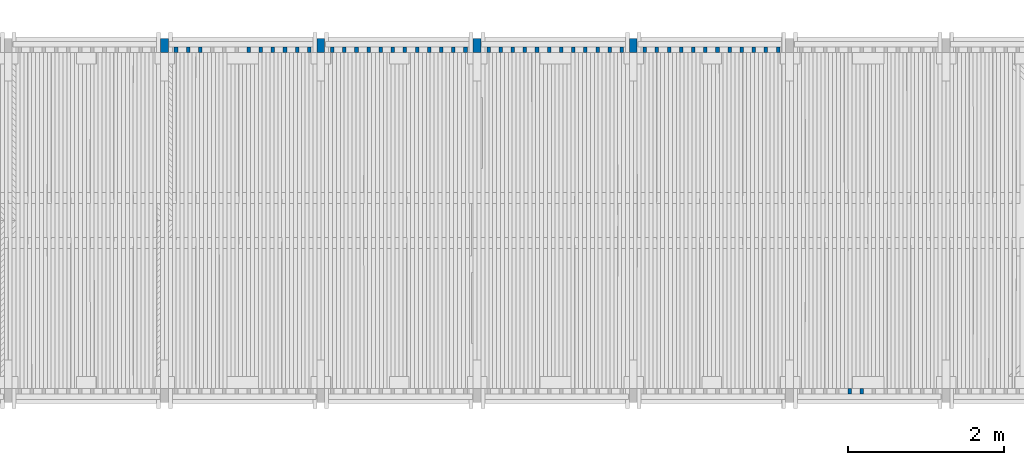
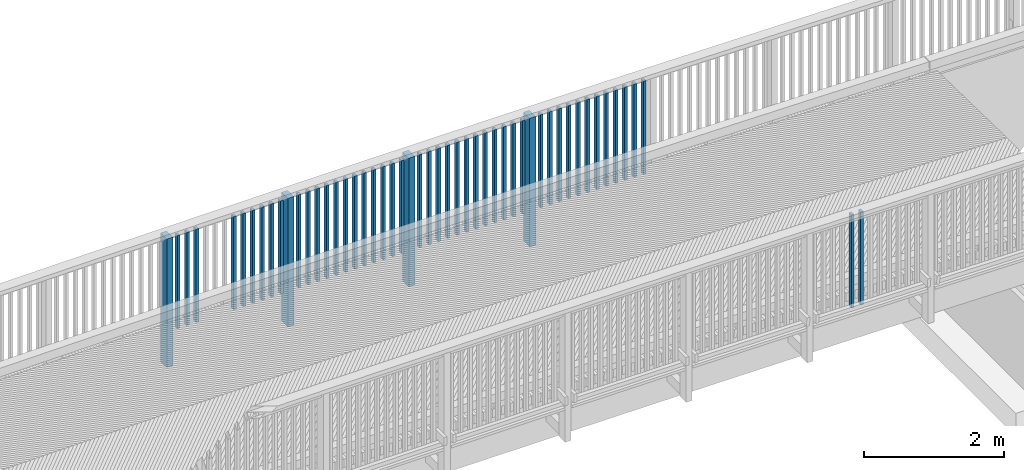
# One storey, part 9 of 52: 51 columns.
"""IFC2X3 building model written with IfcOpenShell, lengths in millimetres."""

from ifc_helpers import new_model, si_unit, frame, origin_with_axes, place, context, subcontext, project, spatial, faceted_brep, material, type_object, element, save


model = new_model("IFC2X3")

# Units and contexts
model_context = context("Model", 3, precision=1e-05, world=origin_with_axes())
body_context = subcontext(model_context, "Body", "Model", "MODEL_VIEW")
ifc_project = project(units=[si_unit("LENGTHUNIT", "METRE", prefix="MILLI"), si_unit("AREAUNIT", "SQUARE_METRE"), si_unit("VOLUMEUNIT", "CUBIC_METRE"), si_unit("MASSUNIT", "GRAM", prefix="KILO"), si_unit("TIMEUNIT", "SECOND"), si_unit("PLANEANGLEUNIT", "RADIAN"), si_unit("SOLIDANGLEUNIT", "STERADIAN"), si_unit("THERMODYNAMICTEMPERATUREUNIT", "DEGREE_CELSIUS"), si_unit("LUMINOUSINTENSITYUNIT", "LUMEN")], contexts=[model_context])

# Site, building, storey
site_placement = place(None, origin_with_axes())
site = spatial("IfcSite", under=ifc_project, at=site_placement, Name="Undefined", CompositionType="ELEMENT")
building_placement = place(site_placement, origin_with_axes())
building = spatial("IfcBuilding", under=site, at=building_placement, Name="Undefined", CompositionType="ELEMENT")
storey_placement = place(building_placement, origin_with_axes())
storey = spatial("IfcBuildingStorey", under=building, at=storey_placement, Name="Undefined", CompositionType="ELEMENT", Elevation=0.0)

# Columns
ifc_material = material(Name="TIMBER/Timber_Undefined")
column_type_1 = type_object("IfcColumnType", Name="180*100", PredefinedType="NOTDEFINED")
for number, where, z_axis, x_axis in (
    (1, (10000.0000678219, 4604.98790809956, 2309.97693042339), (0.0, -1.0, 0.0), (0.0, 0.0, 1.0)),
    (2, (8000.00006782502, 4604.98790809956, 2313.29124390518), (0.0, -1.0, 0.0), (0.0, 0.0, 1.0)),
    (3, (6000.00006782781, 4604.98790809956, 2309.97693031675), (0.0, -1.0, 0.0), (0.0, 0.0, 1.0)),
    (4, (4000.00006783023, 4604.98790809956, 2300.03388043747), (0.0, -1.0, 0.0), (0.0, 0.0, 1.0)),
):
    element("IfcColumn", number, at=place(storey_placement, frame(where, z_axis=z_axis, x_axis=x_axis)), inside=storey, type_object=column_type_1, material=ifc_material, Name="KAIDEPYLVÄS", ObjectType="180*100", context=body_context, shape_type="Brep", body=[
        faceted_brep([(0.0, 50.0, -90.0), (0.0, 50.0, 90.0), (2250.0, 50.0, 90.0), (2250.0, 50.0, -90.0), (0.0, -50.0, 90.0), (2250.0, -50.0, 90.0), (0.0, -50.0, -90.0), (2250.0, -50.0, -90.0)], [[[0, 1, 2, 3]], [[1, 4, 5, 2]], [[4, 6, 7, 5]], [[6, 0, 3, 7]], [[5, 7, 3, 2]], [[6, 4, 1, 0]]]),
    ])
column_type_2 = type_object("IfcColumnType", Name="70*45", PredefinedType="NOTDEFINED")
column_1_placement = place(storey_placement, frame((11852.5000007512, 4549.98790809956, 3109.68000000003), z_axis=(0.0, 1.0, 0.0), x_axis=(0.0, 0.0, 1.0)))
element("IfcColumn", 5, at=column_1_placement, inside=storey, type_object=column_type_2, material=ifc_material, Name="BEAM", ObjectType="70*45", context=body_context, shape_type="Brep", body=[
    faceted_brep([(-189.254587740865, 22.5, -35.0), (-189.254587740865, 22.5, 35.0), (1440.74637076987, 22.5, 35.0), (1440.74637076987, 22.5, -35.0), (-189.019094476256, -22.5, 35.0), (1440.98186403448, -22.5, 35.0), (-189.019094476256, -22.5, -35.0), (1440.98186403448, -22.5, -35.0)], [[[0, 1, 2, 3]], [[1, 4, 5, 2]], [[4, 6, 7, 5]], [[6, 0, 3, 7]], [[5, 7, 3, 2]], [[6, 4, 1, 0]]]),
])
column_2_placement = place(storey_placement, frame((11697.5000007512, 4549.98790809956, 3109.68000000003), z_axis=(0.0, 1.0, 0.0), x_axis=(0.0, 0.0, 1.0)))
element("IfcColumn", 6, at=column_2_placement, inside=storey, type_object=column_type_2, material=ifc_material, Name="BEAM", ObjectType="70*45", context=body_context, shape_type="Brep", body=[
    faceted_brep([(-188.443444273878, 22.5, -35.0), (-188.443444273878, 22.5, 35.0), (1441.55751423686, 22.5, 35.0), (1441.55751423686, 22.5, -35.0), (-188.207951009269, -22.5, 35.0), (1441.79300750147, -22.5, 35.0), (-188.207951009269, -22.5, -35.0), (1441.79300750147, -22.5, -35.0)], [[[0, 1, 2, 3]], [[1, 4, 5, 2]], [[4, 6, 7, 5]], [[6, 0, 3, 7]], [[5, 7, 3, 2]], [[6, 4, 1, 0]]]),
])
column_3_placement = place(storey_placement, frame((11542.5000007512, 4549.98790809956, 3109.68000000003), z_axis=(0.0, 1.0, 0.0), x_axis=(0.0, 0.0, 1.0)))
element("IfcColumn", 7, at=column_3_placement, inside=storey, type_object=column_type_2, material=ifc_material, Name="BEAM", ObjectType="70*45", context=body_context, shape_type="Brep", body=[
    faceted_brep([(-187.63230080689, 22.5, -35.0), (-187.63230080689, 22.5, 35.0), (1442.36865770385, 22.5, 35.0), (1442.36865770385, 22.5, -35.0), (-187.396807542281, -22.5, 35.0), (1442.60415096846, -22.5, 35.0), (-187.396807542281, -22.5, -35.0), (1442.60415096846, -22.5, -35.0)], [[[0, 1, 2, 3]], [[1, 4, 5, 2]], [[4, 6, 7, 5]], [[6, 0, 3, 7]], [[5, 7, 3, 2]], [[6, 4, 1, 0]]]),
])
column_4_placement = place(storey_placement, frame((11387.5000007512, 4549.98790809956, 3109.68000000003), z_axis=(0.0, 1.0, 0.0), x_axis=(0.0, 0.0, 1.0)))
element("IfcColumn", 8, at=column_4_placement, inside=storey, type_object=column_type_2, material=ifc_material, Name="BEAM", ObjectType="70*45", context=body_context, shape_type="Brep", body=[
    faceted_brep([(-186.821157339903, 22.5, -35.0), (-186.821157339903, 22.5, 35.0), (1443.17980117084, 22.5, 35.0), (1443.17980117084, 22.5, -35.0), (-186.585664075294, -22.5, 35.0), (1443.41529443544, -22.5, 35.0), (-186.585664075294, -22.5, -35.0), (1443.41529443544, -22.5, -35.0)], [[[0, 1, 2, 3]], [[1, 4, 5, 2]], [[4, 6, 7, 5]], [[6, 0, 3, 7]], [[5, 7, 3, 2]], [[6, 4, 1, 0]]]),
])
column_5_placement = place(storey_placement, frame((11232.5000007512, 4549.98790809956, 3109.68000000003), z_axis=(0.0, 1.0, 0.0), x_axis=(0.0, 0.0, 1.0)))
element("IfcColumn", 9, at=column_5_placement, inside=storey, type_object=column_type_2, material=ifc_material, Name="BEAM", ObjectType="70*45", context=body_context, shape_type="Brep", body=[
    faceted_brep([(-186.010013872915, 22.5, -35.0), (-186.010013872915, 22.5, 35.0), (1443.99094463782, 22.5, 35.0), (1443.99094463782, 22.5, -35.0), (-185.774520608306, -22.5, 35.0), (1444.22643790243, -22.5, 35.0), (-185.774520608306, -22.5, -35.0), (1444.22643790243, -22.5, -35.0)], [[[0, 1, 2, 3]], [[1, 4, 5, 2]], [[4, 6, 7, 5]], [[6, 0, 3, 7]], [[5, 7, 3, 2]], [[6, 4, 1, 0]]]),
])
column_6_placement = place(storey_placement, frame((11077.5000007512, 4549.98790809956, 3109.68000000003), z_axis=(0.0, 1.0, 0.0), x_axis=(0.0, 0.0, 1.0)))
element("IfcColumn", 10, at=column_6_placement, inside=storey, type_object=column_type_2, material=ifc_material, Name="BEAM", ObjectType="70*45", context=body_context, shape_type="Brep", body=[
    faceted_brep([(-185.198870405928, 22.5, -35.0), (-185.198870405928, 22.5, 35.0), (1444.80208810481, 22.5, 35.0), (1444.80208810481, 22.5, -35.0), (-184.963377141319, -22.5, 35.0), (1445.03758136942, -22.5, 35.0), (-184.963377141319, -22.5, -35.0), (1445.03758136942, -22.5, -35.0)], [[[0, 1, 2, 3]], [[1, 4, 5, 2]], [[4, 6, 7, 5]], [[6, 0, 3, 7]], [[5, 7, 3, 2]], [[6, 4, 1, 0]]]),
])
column_7_placement = place(storey_placement, frame((10922.5000007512, 4549.98790809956, 3109.68000000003), z_axis=(0.0, 1.0, 0.0), x_axis=(0.0, 0.0, 1.0)))
element("IfcColumn", 11, at=column_7_placement, inside=storey, type_object=column_type_2, material=ifc_material, Name="BEAM", ObjectType="70*45", context=body_context, shape_type="Brep", body=[
    faceted_brep([(-184.38772693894, 22.5, -35.0), (-184.38772693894, 22.5, 35.0), (1445.6132315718, 22.5, 35.0), (1445.6132315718, 22.5, -35.0), (-184.152233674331, -22.5, 35.0), (1445.84872483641, -22.5, 35.0), (-184.152233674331, -22.5, -35.0), (1445.84872483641, -22.5, -35.0)], [[[0, 1, 2, 3]], [[1, 4, 5, 2]], [[4, 6, 7, 5]], [[6, 0, 3, 7]], [[5, 7, 3, 2]], [[6, 4, 1, 0]]]),
])
column_8_placement = place(storey_placement, frame((10767.5000007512, 4549.98790809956, 3109.68000000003), z_axis=(0.0, 1.0, 0.0), x_axis=(0.0, 0.0, 1.0)))
element("IfcColumn", 12, at=column_8_placement, inside=storey, type_object=column_type_2, material=ifc_material, Name="BEAM", ObjectType="70*45", context=body_context, shape_type="Brep", body=[
    faceted_brep([(-183.576583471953, 22.5, -35.0), (-183.576583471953, 22.5, 35.0), (1446.42437503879, 22.5, 35.0), (1446.42437503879, 22.5, -35.0), (-183.341090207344, -22.5, 35.0), (1446.65986830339, -22.5, 35.0), (-183.341090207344, -22.5, -35.0), (1446.65986830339, -22.5, -35.0)], [[[0, 1, 2, 3]], [[1, 4, 5, 2]], [[4, 6, 7, 5]], [[6, 0, 3, 7]], [[5, 7, 3, 2]], [[6, 4, 1, 0]]]),
])
column_9_placement = place(storey_placement, frame((10612.5000007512, 4549.98790809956, 3109.68000000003), z_axis=(0.0, 1.0, 0.0), x_axis=(0.0, 0.0, 1.0)))
element("IfcColumn", 13, at=column_9_placement, inside=storey, type_object=column_type_2, material=ifc_material, Name="BEAM", ObjectType="70*45", context=body_context, shape_type="Brep", body=[
    faceted_brep([(-182.765440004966, 22.5, -35.0), (-182.765440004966, 22.5, 35.0), (1447.23551850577, 22.5, 35.0), (1447.23551850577, 22.5, -35.0), (-182.529946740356, -22.5, 35.0), (1447.47101177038, -22.5, 35.0), (-182.529946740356, -22.5, -35.0), (1447.47101177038, -22.5, -35.0)], [[[0, 1, 2, 3]], [[1, 4, 5, 2]], [[4, 6, 7, 5]], [[6, 0, 3, 7]], [[5, 7, 3, 2]], [[6, 4, 1, 0]]]),
])
column_10_placement = place(storey_placement, frame((10457.5000007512, 4549.98790809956, 3109.68000000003), z_axis=(0.0, 1.0, 0.0), x_axis=(0.0, 0.0, 1.0)))
element("IfcColumn", 14, at=column_10_placement, inside=storey, type_object=column_type_2, material=ifc_material, Name="BEAM", ObjectType="70*45", context=body_context, shape_type="Brep", body=[
    faceted_brep([(-181.954296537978, 22.5, -35.0), (-181.954296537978, 22.5, 35.0), (1448.04666197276, 22.5, 35.0), (1448.04666197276, 22.5, -35.0), (-181.718803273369, -22.5, 35.0), (1448.28215523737, -22.5, 35.0), (-181.718803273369, -22.5, -35.0), (1448.28215523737, -22.5, -35.0)], [[[0, 1, 2, 3]], [[1, 4, 5, 2]], [[4, 6, 7, 5]], [[6, 0, 3, 7]], [[5, 7, 3, 2]], [[6, 4, 1, 0]]]),
])
column_11_placement = place(storey_placement, frame((10302.5000007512, 4549.98790809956, 3109.68000000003), z_axis=(0.0, 1.0, 0.0), x_axis=(0.0, 0.0, 1.0)))
element("IfcColumn", 15, at=column_11_placement, inside=storey, type_object=column_type_2, material=ifc_material, Name="BEAM", ObjectType="70*45", context=body_context, shape_type="Brep", body=[
    faceted_brep([(-181.143153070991, 22.5, -35.0), (-181.143153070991, 22.5, 35.0), (1448.85780543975, 22.5, 35.0), (1448.85780543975, 22.5, -35.0), (-180.907659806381, -22.5, 35.0), (1449.09329870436, -22.5, 35.0), (-180.907659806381, -22.5, -35.0), (1449.09329870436, -22.5, -35.0)], [[[0, 1, 2, 3]], [[1, 4, 5, 2]], [[4, 6, 7, 5]], [[6, 0, 3, 7]], [[5, 7, 3, 2]], [[6, 4, 1, 0]]]),
])
column_12_placement = place(storey_placement, frame((10147.5000007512, 4549.98790809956, 3109.68000000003), z_axis=(0.0, 1.0, 0.0), x_axis=(0.0, 0.0, 1.0)))
element("IfcColumn", 16, at=column_12_placement, inside=storey, type_object=column_type_2, material=ifc_material, Name="BEAM", ObjectType="70*45", context=body_context, shape_type="Brep", body=[
    faceted_brep([(-180.332009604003, 22.5, -35.0), (-180.332009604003, 22.5, 35.0), (1449.66894890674, 22.5, 35.0), (1449.66894890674, 22.5, -35.0), (-180.096516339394, -22.5, 35.0), (1449.90444217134, -22.5, 35.0), (-180.096516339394, -22.5, -35.0), (1449.90444217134, -22.5, -35.0)], [[[0, 1, 2, 3]], [[1, 4, 5, 2]], [[4, 6, 7, 5]], [[6, 0, 3, 7]], [[5, 7, 3, 2]], [[6, 4, 1, 0]]]),
])
column_13_placement = place(storey_placement, frame((9852.50000075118, 4549.98790809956, 3109.68000000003), z_axis=(0.0, 1.0, 0.0), x_axis=(0.0, 0.0, 1.0)))
element("IfcColumn", 17, at=column_13_placement, inside=storey, type_object=column_type_2, material=ifc_material, Name="BEAM", ObjectType="70*45", context=body_context, shape_type="Brep", body=[
    faceted_brep([(-179.572348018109, 22.5, -35.0), (-179.572348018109, 22.5, 35.0), (1450.42775848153, 22.5, 35.0), (1450.42775848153, 22.5, -35.0), (-179.493851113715, -22.5, 35.0), (1450.50625538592, -22.5, 35.0), (-179.493851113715, -22.5, -35.0), (1450.50625538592, -22.5, -35.0)], [[[0, 1, 2, 3]], [[1, 4, 5, 2]], [[4, 6, 7, 5]], [[6, 0, 3, 7]], [[5, 7, 3, 2]], [[6, 4, 1, 0]]]),
])
column_14_placement = place(storey_placement, frame((9697.50000075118, 4549.98790809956, 3109.68000000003), z_axis=(0.0, 1.0, 0.0), x_axis=(0.0, 0.0, 1.0)))
element("IfcColumn", 18, at=column_14_placement, inside=storey, type_object=column_type_2, material=ifc_material, Name="BEAM", ObjectType="70*45", context=body_context, shape_type="Brep", body=[
    faceted_brep([(-179.301969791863, 22.5, -35.0), (-179.301969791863, 22.5, 35.0), (1450.69813670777, 22.5, 35.0), (1450.69813670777, 22.5, -35.0), (-179.22347288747, -22.5, 35.0), (1450.77663361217, -22.5, 35.0), (-179.22347288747, -22.5, -35.0), (1450.77663361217, -22.5, -35.0)], [[[0, 1, 2, 3]], [[1, 4, 5, 2]], [[4, 6, 7, 5]], [[6, 0, 3, 7]], [[5, 7, 3, 2]], [[6, 4, 1, 0]]]),
])
column_15_placement = place(storey_placement, frame((9542.50000075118, 4549.98790809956, 3109.68000000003), z_axis=(0.0, 1.0, 0.0), x_axis=(0.0, 0.0, 1.0)))
element("IfcColumn", 19, at=column_15_placement, inside=storey, type_object=column_type_2, material=ifc_material, Name="BEAM", ObjectType="70*45", context=body_context, shape_type="Brep", body=[
    faceted_brep([(-179.031591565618, 22.5, -35.0), (-179.031591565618, 22.5, 35.0), (1450.96851493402, 22.5, 35.0), (1450.96851493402, 22.5, -35.0), (-178.953094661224, -22.5, 35.0), (1451.04701183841, -22.5, 35.0), (-178.953094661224, -22.5, -35.0), (1451.04701183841, -22.5, -35.0)], [[[0, 1, 2, 3]], [[1, 4, 5, 2]], [[4, 6, 7, 5]], [[6, 0, 3, 7]], [[5, 7, 3, 2]], [[6, 4, 1, 0]]]),
])
column_16_placement = place(storey_placement, frame((9387.50000075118, 4549.98790809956, 3109.68000000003), z_axis=(0.0, 1.0, 0.0), x_axis=(0.0, 0.0, 1.0)))
element("IfcColumn", 20, at=column_16_placement, inside=storey, type_object=column_type_2, material=ifc_material, Name="BEAM", ObjectType="70*45", context=body_context, shape_type="Brep", body=[
    faceted_brep([(-178.761213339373, 22.5, -35.0), (-178.761213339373, 22.5, 35.0), (1451.23889316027, 22.5, 35.0), (1451.23889316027, 22.5, -35.0), (-178.682716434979, -22.5, 35.0), (1451.31739006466, -22.5, 35.0), (-178.682716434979, -22.5, -35.0), (1451.31739006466, -22.5, -35.0)], [[[0, 1, 2, 3]], [[1, 4, 5, 2]], [[4, 6, 7, 5]], [[6, 0, 3, 7]], [[5, 7, 3, 2]], [[6, 4, 1, 0]]]),
])
column_17_placement = place(storey_placement, frame((9232.50000075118, 4549.98790809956, 3109.68000000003), z_axis=(0.0, 1.0, 0.0), x_axis=(0.0, 0.0, 1.0)))
element("IfcColumn", 21, at=column_17_placement, inside=storey, type_object=column_type_2, material=ifc_material, Name="BEAM", ObjectType="70*45", context=body_context, shape_type="Brep", body=[
    faceted_brep([(-178.490835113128, 22.5, -35.0), (-178.490835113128, 22.5, 35.0), (1451.50927138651, 22.5, 35.0), (1451.50927138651, 22.5, -35.0), (-178.412338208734, -22.5, 35.0), (1451.5877682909, -22.5, 35.0), (-178.412338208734, -22.5, -35.0), (1451.5877682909, -22.5, -35.0)], [[[0, 1, 2, 3]], [[1, 4, 5, 2]], [[4, 6, 7, 5]], [[6, 0, 3, 7]], [[5, 7, 3, 2]], [[6, 4, 1, 0]]]),
])
column_18_placement = place(storey_placement, frame((9077.50000075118, 4549.98790809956, 3109.68000000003), z_axis=(0.0, 1.0, 0.0), x_axis=(0.0, 0.0, 1.0)))
element("IfcColumn", 22, at=column_18_placement, inside=storey, type_object=column_type_2, material=ifc_material, Name="BEAM", ObjectType="70*45", context=body_context, shape_type="Brep", body=[
    faceted_brep([(-178.220456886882, 22.5, -35.0), (-178.220456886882, 22.5, 35.0), (1451.77964961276, 22.5, 35.0), (1451.77964961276, 22.5, -35.0), (-178.141959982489, -22.5, 35.0), (1451.85814651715, -22.5, 35.0), (-178.141959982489, -22.5, -35.0), (1451.85814651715, -22.5, -35.0)], [[[0, 1, 2, 3]], [[1, 4, 5, 2]], [[4, 6, 7, 5]], [[6, 0, 3, 7]], [[5, 7, 3, 2]], [[6, 4, 1, 0]]]),
])
column_19_placement = place(storey_placement, frame((8922.50000075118, 4549.98790809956, 3109.68000000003), z_axis=(0.0, 1.0, 0.0), x_axis=(0.0, 0.0, 1.0)))
element("IfcColumn", 23, at=column_19_placement, inside=storey, type_object=column_type_2, material=ifc_material, Name="BEAM", ObjectType="70*45", context=body_context, shape_type="Brep", body=[
    faceted_brep([(-177.950078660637, 22.5, -35.0), (-177.950078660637, 22.5, 35.0), (1452.050027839, 22.5, 35.0), (1452.050027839, 22.5, -35.0), (-177.871581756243, -22.5, 35.0), (1452.12852474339, -22.5, 35.0), (-177.871581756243, -22.5, -35.0), (1452.12852474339, -22.5, -35.0)], [[[0, 1, 2, 3]], [[1, 4, 5, 2]], [[4, 6, 7, 5]], [[6, 0, 3, 7]], [[5, 7, 3, 2]], [[6, 4, 1, 0]]]),
])
column_20_placement = place(storey_placement, frame((8767.50000075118, 4549.98790809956, 3109.68000000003), z_axis=(0.0, 1.0, 0.0), x_axis=(0.0, 0.0, 1.0)))
element("IfcColumn", 24, at=column_20_placement, inside=storey, type_object=column_type_2, material=ifc_material, Name="BEAM", ObjectType="70*45", context=body_context, shape_type="Brep", body=[
    faceted_brep([(-177.679700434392, 22.5, -35.0), (-177.679700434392, 22.5, 35.0), (1452.32040606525, 22.5, 35.0), (1452.32040606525, 22.5, -35.0), (-177.601203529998, -22.5, 35.0), (1452.39890296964, -22.5, 35.0), (-177.601203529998, -22.5, -35.0), (1452.39890296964, -22.5, -35.0)], [[[0, 1, 2, 3]], [[1, 4, 5, 2]], [[4, 6, 7, 5]], [[6, 0, 3, 7]], [[5, 7, 3, 2]], [[6, 4, 1, 0]]]),
])
column_21_placement = place(storey_placement, frame((8612.50000075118, 4549.98790809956, 3109.68000000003), z_axis=(0.0, 1.0, 0.0), x_axis=(0.0, 0.0, 1.0)))
element("IfcColumn", 25, at=column_21_placement, inside=storey, type_object=column_type_2, material=ifc_material, Name="BEAM", ObjectType="70*45", context=body_context, shape_type="Brep", body=[
    faceted_brep([(-177.409322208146, 22.5, -35.0), (-177.409322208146, 22.5, 35.0), (1452.59078429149, 22.5, 35.0), (1452.59078429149, 22.5, -35.0), (-177.330825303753, -22.5, 35.0), (1452.66928119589, -22.5, 35.0), (-177.330825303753, -22.5, -35.0), (1452.66928119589, -22.5, -35.0)], [[[0, 1, 2, 3]], [[1, 4, 5, 2]], [[4, 6, 7, 5]], [[6, 0, 3, 7]], [[5, 7, 3, 2]], [[6, 4, 1, 0]]]),
])
column_22_placement = place(storey_placement, frame((8457.50000075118, 4549.98790809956, 3109.68000000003), z_axis=(0.0, 1.0, 0.0), x_axis=(0.0, 0.0, 1.0)))
element("IfcColumn", 26, at=column_22_placement, inside=storey, type_object=column_type_2, material=ifc_material, Name="BEAM", ObjectType="70*45", context=body_context, shape_type="Brep", body=[
    faceted_brep([(-177.138943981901, 22.5, -35.0), (-177.138943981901, 22.5, 35.0), (1452.86116251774, 22.5, 35.0), (1452.86116251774, 22.5, -35.0), (-177.060447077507, -22.5, 35.0), (1452.93965942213, -22.5, 35.0), (-177.060447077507, -22.5, -35.0), (1452.93965942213, -22.5, -35.0)], [[[0, 1, 2, 3]], [[1, 4, 5, 2]], [[4, 6, 7, 5]], [[6, 0, 3, 7]], [[5, 7, 3, 2]], [[6, 4, 1, 0]]]),
])
column_23_placement = place(storey_placement, frame((8302.50000075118, 4549.98790809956, 3109.68000000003), z_axis=(0.0, 1.0, 0.0), x_axis=(0.0, 0.0, 1.0)))
element("IfcColumn", 27, at=column_23_placement, inside=storey, type_object=column_type_2, material=ifc_material, Name="BEAM", ObjectType="70*45", context=body_context, shape_type="Brep", body=[
    faceted_brep([(-176.868565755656, 22.5, -35.0), (-176.868565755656, 22.5, 35.0), (1453.13154074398, 22.5, 35.0), (1453.13154074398, 22.5, -35.0), (-176.790068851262, -22.5, 35.0), (1453.21003764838, -22.5, 35.0), (-176.790068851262, -22.5, -35.0), (1453.21003764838, -22.5, -35.0)], [[[0, 1, 2, 3]], [[1, 4, 5, 2]], [[4, 6, 7, 5]], [[6, 0, 3, 7]], [[5, 7, 3, 2]], [[6, 4, 1, 0]]]),
])
column_24_placement = place(storey_placement, frame((8147.50000075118, 4549.98790809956, 3109.68000000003), z_axis=(0.0, 1.0, 0.0), x_axis=(0.0, 0.0, 1.0)))
element("IfcColumn", 28, at=column_24_placement, inside=storey, type_object=column_type_2, material=ifc_material, Name="BEAM", ObjectType="70*45", context=body_context, shape_type="Brep", body=[
    faceted_brep([(-176.598187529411, 22.5, -35.0), (-176.598187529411, 22.5, 35.0), (1453.40191897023, 22.5, 35.0), (1453.40191897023, 22.5, -35.0), (-176.519690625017, -22.5, 35.0), (1453.48041587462, -22.5, 35.0), (-176.519690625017, -22.5, -35.0), (1453.48041587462, -22.5, -35.0)], [[[0, 1, 2, 3]], [[1, 4, 5, 2]], [[4, 6, 7, 5]], [[6, 0, 3, 7]], [[5, 7, 3, 2]], [[6, 4, 1, 0]]]),
])
column_25_placement = place(storey_placement, frame((7852.50000075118, 4549.98790809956, 3109.68000000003), z_axis=(0.0, 1.0, 0.0), x_axis=(0.0, 0.0, 1.0)))
element("IfcColumn", 29, at=column_25_placement, inside=storey, type_object=column_type_2, material=ifc_material, Name="BEAM", ObjectType="70*45", context=body_context, shape_type="Brep", body=[
    faceted_brep([(-176.519690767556, 22.5, -35.0), (-176.519690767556, 22.5, 35.0), (1453.48041573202, 22.5, 35.0), (1453.48041573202, 22.5, -35.0), (-176.59818767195, -22.5, 35.0), (1453.40191882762, -22.5, 35.0), (-176.59818767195, -22.5, -35.0), (1453.40191882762, -22.5, -35.0)], [[[0, 1, 2, 3]], [[1, 4, 5, 2]], [[4, 6, 7, 5]], [[6, 0, 3, 7]], [[5, 7, 3, 2]], [[6, 4, 1, 0]]]),
])
column_26_placement = place(storey_placement, frame((7697.50000075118, 4549.98790809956, 3109.68000000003), z_axis=(0.0, 1.0, 0.0), x_axis=(0.0, 0.0, 1.0)))
element("IfcColumn", 30, at=column_26_placement, inside=storey, type_object=column_type_2, material=ifc_material, Name="BEAM", ObjectType="70*45", context=body_context, shape_type="Brep", body=[
    faceted_brep([(-176.790068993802, 22.5, -35.0), (-176.790068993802, 22.5, 35.0), (1453.21003750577, 22.5, 35.0), (1453.21003750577, 22.5, -35.0), (-176.868565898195, -22.5, 35.0), (1453.13154060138, -22.5, 35.0), (-176.868565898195, -22.5, -35.0), (1453.13154060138, -22.5, -35.0)], [[[0, 1, 2, 3]], [[1, 4, 5, 2]], [[4, 6, 7, 5]], [[6, 0, 3, 7]], [[5, 7, 3, 2]], [[6, 4, 1, 0]]]),
])
column_27_placement = place(storey_placement, frame((7542.50000075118, 4549.98790809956, 3109.68000000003), z_axis=(0.0, 1.0, 0.0), x_axis=(0.0, 0.0, 1.0)))
element("IfcColumn", 31, at=column_27_placement, inside=storey, type_object=column_type_2, material=ifc_material, Name="BEAM", ObjectType="70*45", context=body_context, shape_type="Brep", body=[
    faceted_brep([(-177.060447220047, 22.5, -35.0), (-177.060447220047, 22.5, 35.0), (1452.93965927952, 22.5, 35.0), (1452.93965927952, 22.5, -35.0), (-177.138944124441, -22.5, 35.0), (1452.86116237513, -22.5, 35.0), (-177.138944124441, -22.5, -35.0), (1452.86116237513, -22.5, -35.0)], [[[0, 1, 2, 3]], [[1, 4, 5, 2]], [[4, 6, 7, 5]], [[6, 0, 3, 7]], [[5, 7, 3, 2]], [[6, 4, 1, 0]]]),
])
column_28_placement = place(storey_placement, frame((7387.50000075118, 4549.98790809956, 3109.68000000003), z_axis=(0.0, 1.0, 0.0), x_axis=(0.0, 0.0, 1.0)))
element("IfcColumn", 32, at=column_28_placement, inside=storey, type_object=column_type_2, material=ifc_material, Name="BEAM", ObjectType="70*45", context=body_context, shape_type="Brep", body=[
    faceted_brep([(-177.330825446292, 22.5, -35.0), (-177.330825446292, 22.5, 35.0), (1452.66928105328, 22.5, 35.0), (1452.66928105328, 22.5, -35.0), (-177.409322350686, -22.5, 35.0), (1452.59078414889, -22.5, 35.0), (-177.409322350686, -22.5, -35.0), (1452.59078414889, -22.5, -35.0)], [[[0, 1, 2, 3]], [[1, 4, 5, 2]], [[4, 6, 7, 5]], [[6, 0, 3, 7]], [[5, 7, 3, 2]], [[6, 4, 1, 0]]]),
])
column_29_placement = place(storey_placement, frame((7232.50000075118, 4549.98790809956, 3109.68000000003), z_axis=(0.0, 1.0, 0.0), x_axis=(0.0, 0.0, 1.0)))
element("IfcColumn", 33, at=column_29_placement, inside=storey, type_object=column_type_2, material=ifc_material, Name="BEAM", ObjectType="70*45", context=body_context, shape_type="Brep", body=[
    faceted_brep([(-177.601203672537, 22.5, -35.0), (-177.601203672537, 22.5, 35.0), (1452.39890282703, 22.5, 35.0), (1452.39890282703, 22.5, -35.0), (-177.679700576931, -22.5, 35.0), (1452.32040592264, -22.5, 35.0), (-177.679700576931, -22.5, -35.0), (1452.32040592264, -22.5, -35.0)], [[[0, 1, 2, 3]], [[1, 4, 5, 2]], [[4, 6, 7, 5]], [[6, 0, 3, 7]], [[5, 7, 3, 2]], [[6, 4, 1, 0]]]),
])
column_30_placement = place(storey_placement, frame((7077.50000075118, 4549.98790809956, 3109.68000000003), z_axis=(0.0, 1.0, 0.0), x_axis=(0.0, 0.0, 1.0)))
element("IfcColumn", 34, at=column_30_placement, inside=storey, type_object=column_type_2, material=ifc_material, Name="BEAM", ObjectType="70*45", context=body_context, shape_type="Brep", body=[
    faceted_brep([(-177.871581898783, 22.5, -35.0), (-177.871581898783, 22.5, 35.0), (1452.12852460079, 22.5, 35.0), (1452.12852460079, 22.5, -35.0), (-177.950078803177, -22.5, 35.0), (1452.05002769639, -22.5, 35.0), (-177.950078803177, -22.5, -35.0), (1452.05002769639, -22.5, -35.0)], [[[0, 1, 2, 3]], [[1, 4, 5, 2]], [[4, 6, 7, 5]], [[6, 0, 3, 7]], [[5, 7, 3, 2]], [[6, 4, 1, 0]]]),
])
column_31_placement = place(storey_placement, frame((6922.50000075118, 4549.98790809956, 3109.68000000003), z_axis=(0.0, 1.0, 0.0), x_axis=(0.0, 0.0, 1.0)))
element("IfcColumn", 35, at=column_31_placement, inside=storey, type_object=column_type_2, material=ifc_material, Name="BEAM", ObjectType="70*45", context=body_context, shape_type="Brep", body=[
    faceted_brep([(-178.141960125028, 22.5, -35.0), (-178.141960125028, 22.5, 35.0), (1451.85814637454, 22.5, 35.0), (1451.85814637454, 22.5, -35.0), (-178.220457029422, -22.5, 35.0), (1451.77964947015, -22.5, 35.0), (-178.220457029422, -22.5, -35.0), (1451.77964947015, -22.5, -35.0)], [[[0, 1, 2, 3]], [[1, 4, 5, 2]], [[4, 6, 7, 5]], [[6, 0, 3, 7]], [[5, 7, 3, 2]], [[6, 4, 1, 0]]]),
])
column_32_placement = place(storey_placement, frame((6767.50000075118, 4549.98790809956, 3109.68000000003), z_axis=(0.0, 1.0, 0.0), x_axis=(0.0, 0.0, 1.0)))
element("IfcColumn", 36, at=column_32_placement, inside=storey, type_object=column_type_2, material=ifc_material, Name="BEAM", ObjectType="70*45", context=body_context, shape_type="Brep", body=[
    faceted_brep([(-178.412338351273, 22.5, -35.0), (-178.412338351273, 22.5, 35.0), (1451.5877681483, 22.5, 35.0), (1451.5877681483, 22.5, -35.0), (-178.490835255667, -22.5, 35.0), (1451.5092712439, -22.5, 35.0), (-178.490835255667, -22.5, -35.0), (1451.5092712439, -22.5, -35.0)], [[[0, 1, 2, 3]], [[1, 4, 5, 2]], [[4, 6, 7, 5]], [[6, 0, 3, 7]], [[5, 7, 3, 2]], [[6, 4, 1, 0]]]),
])
column_33_placement = place(storey_placement, frame((6612.50000075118, 4549.98790809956, 3109.68000000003), z_axis=(0.0, 1.0, 0.0), x_axis=(0.0, 0.0, 1.0)))
element("IfcColumn", 37, at=column_33_placement, inside=storey, type_object=column_type_2, material=ifc_material, Name="BEAM", ObjectType="70*45", context=body_context, shape_type="Brep", body=[
    faceted_brep([(-178.682716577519, 22.5, -35.0), (-178.682716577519, 22.5, 35.0), (1451.31738992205, 22.5, 35.0), (1451.31738992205, 22.5, -35.0), (-178.761213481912, -22.5, 35.0), (1451.23889301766, -22.5, 35.0), (-178.761213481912, -22.5, -35.0), (1451.23889301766, -22.5, -35.0)], [[[0, 1, 2, 3]], [[1, 4, 5, 2]], [[4, 6, 7, 5]], [[6, 0, 3, 7]], [[5, 7, 3, 2]], [[6, 4, 1, 0]]]),
])
column_34_placement = place(storey_placement, frame((6457.50000075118, 4549.98790809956, 3109.68000000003), z_axis=(0.0, 1.0, 0.0), x_axis=(0.0, 0.0, 1.0)))
element("IfcColumn", 38, at=column_34_placement, inside=storey, type_object=column_type_2, material=ifc_material, Name="BEAM", ObjectType="70*45", context=body_context, shape_type="Brep", body=[
    faceted_brep([(-178.953094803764, 22.5, -35.0), (-178.953094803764, 22.5, 35.0), (1451.04701169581, 22.5, 35.0), (1451.04701169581, 22.5, -35.0), (-179.031591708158, -22.5, 35.0), (1450.96851479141, -22.5, 35.0), (-179.031591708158, -22.5, -35.0), (1450.96851479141, -22.5, -35.0)], [[[0, 1, 2, 3]], [[1, 4, 5, 2]], [[4, 6, 7, 5]], [[6, 0, 3, 7]], [[5, 7, 3, 2]], [[6, 4, 1, 0]]]),
])
column_35_placement = place(storey_placement, frame((6302.50000075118, 4549.98790809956, 3109.68000000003), z_axis=(0.0, 1.0, 0.0), x_axis=(0.0, 0.0, 1.0)))
element("IfcColumn", 39, at=column_35_placement, inside=storey, type_object=column_type_2, material=ifc_material, Name="BEAM", ObjectType="70*45", context=body_context, shape_type="Brep", body=[
    faceted_brep([(-179.223473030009, 22.5, -35.0), (-179.223473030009, 22.5, 35.0), (1450.77663346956, 22.5, 35.0), (1450.77663346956, 22.5, -35.0), (-179.301969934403, -22.5, 35.0), (1450.69813656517, -22.5, 35.0), (-179.301969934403, -22.5, -35.0), (1450.69813656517, -22.5, -35.0)], [[[0, 1, 2, 3]], [[1, 4, 5, 2]], [[4, 6, 7, 5]], [[6, 0, 3, 7]], [[5, 7, 3, 2]], [[6, 4, 1, 0]]]),
])
column_36_placement = place(storey_placement, frame((6147.50000075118, 4549.98790809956, 3109.68000000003), z_axis=(0.0, 1.0, 0.0), x_axis=(0.0, 0.0, 1.0)))
element("IfcColumn", 40, at=column_36_placement, inside=storey, type_object=column_type_2, material=ifc_material, Name="BEAM", ObjectType="70*45", context=body_context, shape_type="Brep", body=[
    faceted_brep([(-179.493851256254, 22.5, -35.0), (-179.493851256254, 22.5, 35.0), (1450.50625524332, 22.5, 35.0), (1450.50625524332, 22.5, -35.0), (-179.572348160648, -22.5, 35.0), (1450.42775833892, -22.5, 35.0), (-179.572348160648, -22.5, -35.0), (1450.42775833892, -22.5, -35.0)], [[[0, 1, 2, 3]], [[1, 4, 5, 2]], [[4, 6, 7, 5]], [[6, 0, 3, 7]], [[5, 7, 3, 2]], [[6, 4, 1, 0]]]),
])
column_37_placement = place(storey_placement, frame((5852.50000075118, 4549.98790809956, 3106.97000000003), z_axis=(0.0, 1.0, 0.0), x_axis=(0.0, 0.0, 1.0)))
element("IfcColumn", 41, at=column_37_placement, inside=storey, type_object=column_type_2, material=ifc_material, Name="BEAM", ObjectType="70*45", context=body_context, shape_type="Brep", body=[
    faceted_brep([(-180.096518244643, 22.5, -35.0), (-180.096518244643, 22.5, 35.0), (1449.90444026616, 22.5, 35.0), (1449.90444026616, 22.5, -35.0), (-180.332011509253, -22.5, 35.0), (1449.66894700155, -22.5, 35.0), (-180.332011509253, -22.5, -35.0), (1449.66894700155, -22.5, -35.0)], [[[0, 1, 2, 3]], [[1, 4, 5, 2]], [[4, 6, 7, 5]], [[6, 0, 3, 7]], [[5, 7, 3, 2]], [[6, 4, 1, 0]]]),
])
column_38_placement = place(storey_placement, frame((5697.50000075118, 4549.98790809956, 3106.97000000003), z_axis=(0.0, 1.0, 0.0), x_axis=(0.0, 0.0, 1.0)))
element("IfcColumn", 42, at=column_38_placement, inside=storey, type_object=column_type_2, material=ifc_material, Name="BEAM", ObjectType="70*45", context=body_context, shape_type="Brep", body=[
    faceted_brep([(-180.907661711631, 22.5, -35.0), (-180.907661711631, 22.5, 35.0), (1449.09329679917, 22.5, 35.0), (1449.09329679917, 22.5, -35.0), (-181.14315497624, -22.5, 35.0), (1448.85780353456, -22.5, 35.0), (-181.14315497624, -22.5, -35.0), (1448.85780353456, -22.5, -35.0)], [[[0, 1, 2, 3]], [[1, 4, 5, 2]], [[4, 6, 7, 5]], [[6, 0, 3, 7]], [[5, 7, 3, 2]], [[6, 4, 1, 0]]]),
])
column_39_placement = place(storey_placement, frame((5542.50000075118, 4549.98790809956, 3106.97000000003), z_axis=(0.0, 1.0, 0.0), x_axis=(0.0, 0.0, 1.0)))
element("IfcColumn", 43, at=column_39_placement, inside=storey, type_object=column_type_2, material=ifc_material, Name="BEAM", ObjectType="70*45", context=body_context, shape_type="Brep", body=[
    faceted_brep([(-181.718805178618, 22.5, -35.0), (-181.718805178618, 22.5, 35.0), (1448.28215333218, 22.5, 35.0), (1448.28215333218, 22.5, -35.0), (-181.954298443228, -22.5, 35.0), (1448.04666006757, -22.5, 35.0), (-181.954298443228, -22.5, -35.0), (1448.04666006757, -22.5, -35.0)], [[[0, 1, 2, 3]], [[1, 4, 5, 2]], [[4, 6, 7, 5]], [[6, 0, 3, 7]], [[5, 7, 3, 2]], [[6, 4, 1, 0]]]),
])
column_40_placement = place(storey_placement, frame((5387.50000075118, 4549.98790809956, 3106.97000000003), z_axis=(0.0, 1.0, 0.0), x_axis=(0.0, 0.0, 1.0)))
element("IfcColumn", 44, at=column_40_placement, inside=storey, type_object=column_type_2, material=ifc_material, Name="BEAM", ObjectType="70*45", context=body_context, shape_type="Brep", body=[
    faceted_brep([(-182.529948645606, 22.5, -35.0), (-182.529948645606, 22.5, 35.0), (1447.47100986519, 22.5, 35.0), (1447.47100986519, 22.5, -35.0), (-182.765441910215, -22.5, 35.0), (1447.23551660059, -22.5, 35.0), (-182.765441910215, -22.5, -35.0), (1447.23551660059, -22.5, -35.0)], [[[0, 1, 2, 3]], [[1, 4, 5, 2]], [[4, 6, 7, 5]], [[6, 0, 3, 7]], [[5, 7, 3, 2]], [[6, 4, 1, 0]]]),
])
column_41_placement = place(storey_placement, frame((5232.50000075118, 4549.98790809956, 3106.97000000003), z_axis=(0.0, 1.0, 0.0), x_axis=(0.0, 0.0, 1.0)))
element("IfcColumn", 45, at=column_41_placement, inside=storey, type_object=column_type_2, material=ifc_material, Name="BEAM", ObjectType="70*45", context=body_context, shape_type="Brep", body=[
    faceted_brep([(-183.341092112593, 22.5, -35.0), (-183.341092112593, 22.5, 35.0), (1446.65986639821, 22.5, 35.0), (1446.65986639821, 22.5, -35.0), (-183.576585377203, -22.5, 35.0), (1446.4243731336, -22.5, 35.0), (-183.576585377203, -22.5, -35.0), (1446.4243731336, -22.5, -35.0)], [[[0, 1, 2, 3]], [[1, 4, 5, 2]], [[4, 6, 7, 5]], [[6, 0, 3, 7]], [[5, 7, 3, 2]], [[6, 4, 1, 0]]]),
])
column_42_placement = place(storey_placement, frame((5077.50000075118, 4549.98790809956, 3106.97000000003), z_axis=(0.0, 1.0, 0.0), x_axis=(0.0, 0.0, 1.0)))
element("IfcColumn", 46, at=column_42_placement, inside=storey, type_object=column_type_2, material=ifc_material, Name="BEAM", ObjectType="70*45", context=body_context, shape_type="Brep", body=[
    faceted_brep([(-184.152235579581, 22.5, -35.0), (-184.152235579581, 22.5, 35.0), (1445.84872293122, 22.5, 35.0), (1445.84872293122, 22.5, -35.0), (-184.38772884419, -22.5, 35.0), (1445.61322966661, -22.5, 35.0), (-184.38772884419, -22.5, -35.0), (1445.61322966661, -22.5, -35.0)], [[[0, 1, 2, 3]], [[1, 4, 5, 2]], [[4, 6, 7, 5]], [[6, 0, 3, 7]], [[5, 7, 3, 2]], [[6, 4, 1, 0]]]),
])
column_43_placement = place(storey_placement, frame((4457.50000075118, 4549.98790809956, 3106.97000000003), z_axis=(0.0, 1.0, 0.0), x_axis=(0.0, 0.0, 1.0)))
element("IfcColumn", 47, at=column_43_placement, inside=storey, type_object=column_type_2, material=ifc_material, Name="BEAM", ObjectType="70*45", context=body_context, shape_type="Brep", body=[
    faceted_brep([(-187.396809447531, 22.5, -35.0), (-187.396809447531, 22.5, 35.0), (1442.60414906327, 22.5, 35.0), (1442.60414906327, 22.5, -35.0), (-187.63230271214, -22.5, 35.0), (1442.36865579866, -22.5, 35.0), (-187.63230271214, -22.5, -35.0), (1442.36865579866, -22.5, -35.0)], [[[0, 1, 2, 3]], [[1, 4, 5, 2]], [[4, 6, 7, 5]], [[6, 0, 3, 7]], [[5, 7, 3, 2]], [[6, 4, 1, 0]]]),
])
column_44_placement = place(storey_placement, frame((4302.50000075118, 4549.98790809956, 3106.97000000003), z_axis=(0.0, 1.0, 0.0), x_axis=(0.0, 0.0, 1.0)))
element("IfcColumn", 48, at=column_44_placement, inside=storey, type_object=column_type_2, material=ifc_material, Name="BEAM", ObjectType="70*45", context=body_context, shape_type="Brep", body=[
    faceted_brep([(-188.207952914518, 22.5, -35.0), (-188.207952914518, 22.5, 35.0), (1441.79300559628, 22.5, 35.0), (1441.79300559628, 22.5, -35.0), (-188.443446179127, -22.5, 35.0), (1441.55751233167, -22.5, 35.0), (-188.443446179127, -22.5, -35.0), (1441.55751233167, -22.5, -35.0)], [[[0, 1, 2, 3]], [[1, 4, 5, 2]], [[4, 6, 7, 5]], [[6, 0, 3, 7]], [[5, 7, 3, 2]], [[6, 4, 1, 0]]]),
])
column_45_placement = place(storey_placement, frame((4147.50000075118, 4549.98790809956, 3106.97000000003), z_axis=(0.0, 1.0, 0.0), x_axis=(0.0, 0.0, 1.0)))
element("IfcColumn", 49, at=column_45_placement, inside=storey, type_object=column_type_2, material=ifc_material, Name="BEAM", ObjectType="70*45", context=body_context, shape_type="Brep", body=[
    faceted_brep([(-189.019096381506, 22.5, -35.0), (-189.019096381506, 22.5, 35.0), (1440.98186212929, 22.5, 35.0), (1440.98186212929, 22.5, -35.0), (-189.254589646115, -22.5, 35.0), (1440.74636886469, -22.5, 35.0), (-189.254589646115, -22.5, -35.0), (1440.74636886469, -22.5, -35.0)], [[[0, 1, 2, 3]], [[1, 4, 5, 2]], [[4, 6, 7, 5]], [[6, 0, 3, 7]], [[5, 7, 3, 2]], [[6, 4, 1, 0]]]),
])
column_46_placement = place(storey_placement, frame((12922.5000007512, 180.01209190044, 3109.68000000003), z_axis=(0.0, -1.0, 0.0), x_axis=(0.0, 0.0, 1.0)))
element("IfcColumn", 50, at=column_46_placement, inside=storey, type_object=column_type_2, material=ifc_material, Name="BEAM", ObjectType="70*45", context=body_context, shape_type="Brep", body=[
    faceted_brep([(-197.062621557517, 22.5, -35.0), (-197.062621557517, 22.5, 35.0), (1432.94003917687, 22.5, 35.0), (1432.94003917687, 22.5, -35.0), (-197.455118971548, -22.5, 35.0), (1432.54754176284, -22.5, 35.0), (-197.455118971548, -22.5, -35.0), (1432.54754176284, -22.5, -35.0)], [[[0, 1, 2, 3]], [[1, 4, 5, 2]], [[4, 6, 7, 5]], [[6, 0, 3, 7]], [[5, 7, 3, 2]], [[6, 4, 1, 0]]]),
])
column_47_placement = place(storey_placement, frame((12767.5000007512, 180.01209190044, 3109.68000000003), z_axis=(0.0, -1.0, 0.0), x_axis=(0.0, 0.0, 1.0)))
element("IfcColumn", 51, at=column_47_placement, inside=storey, type_object=column_type_2, material=ifc_material, Name="BEAM", ObjectType="70*45", context=body_context, shape_type="Brep", body=[
    faceted_brep([(-195.710686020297, 22.5, -35.0), (-195.710686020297, 22.5, 35.0), (1434.29197471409, 22.5, 35.0), (1434.29197471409, 22.5, -35.0), (-196.103183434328, -22.5, 35.0), (1433.89947730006, -22.5, 35.0), (-196.103183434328, -22.5, -35.0), (1433.89947730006, -22.5, -35.0)], [[[0, 1, 2, 3]], [[1, 4, 5, 2]], [[4, 6, 7, 5]], [[6, 0, 3, 7]], [[5, 7, 3, 2]], [[6, 4, 1, 0]]]),
])

save(model, "model.ifc")
